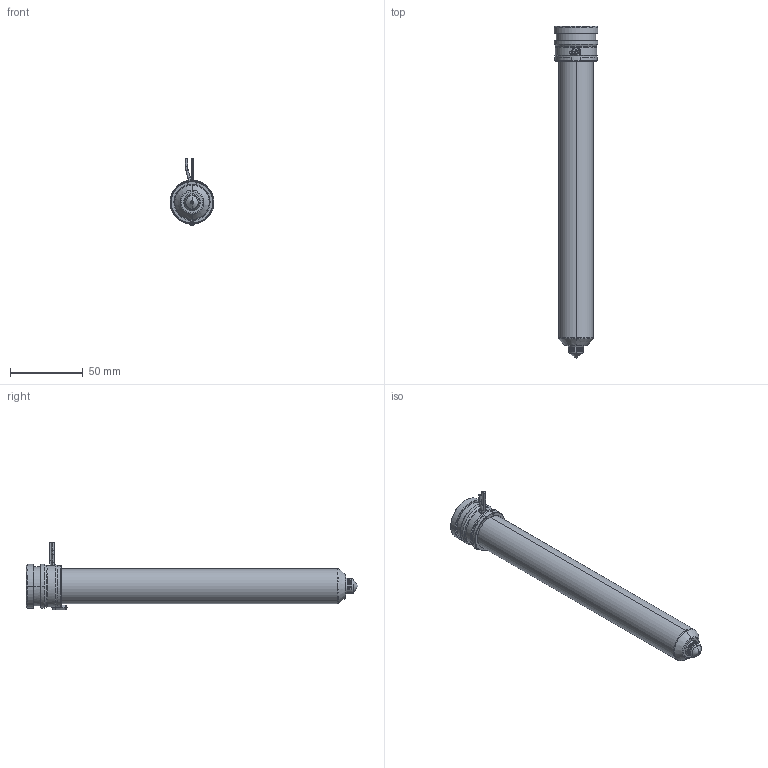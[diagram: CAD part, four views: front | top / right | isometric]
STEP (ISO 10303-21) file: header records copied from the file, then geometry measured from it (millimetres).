
FILE_DESCRIPTION((''),'2;1');
FILE_NAME('MPN-10-29-TX10-206-A','2026-02-11T11:18:13',('UVRWS'),('Thermoplay S.p.A.'),'CREO PARAMETRIC BY PTC INC, 2023494','CREO PARAMETRIC BY PTC INC, 2023494','');
FILE_SCHEMA(('CONFIG_CONTROL_DESIGN','SHAPE_APPEARANCE_LAYERS_GROUPS'));
Length unit declared in the file: millimetre
Products named in the file (1): MPN-10-29-TX10-206-A
Bounding box: 30 x 227.5 x 46 mm (x, y, z)
Volume: 69931.4 mm3; surface area: 71004.5 mm2
Topology: 2 solids, 3 shells, 551 faces, 1455 edges, 899 vertices
Faces by surface type: cylinder 180, plane 143, bspline 79, torus 68, cone 66, sphere 11, extrusion 4
Entity records: 31235 total; most frequent: CARTESIAN_POINT 14879, ORIENTED_EDGE 2894, DIRECTION 2641, EDGE_CURVE 1447, AXIS2_PLACEMENT_3D 1045, VERTEX_POINT 899, EDGE_LOOP 580, CIRCLE 576
